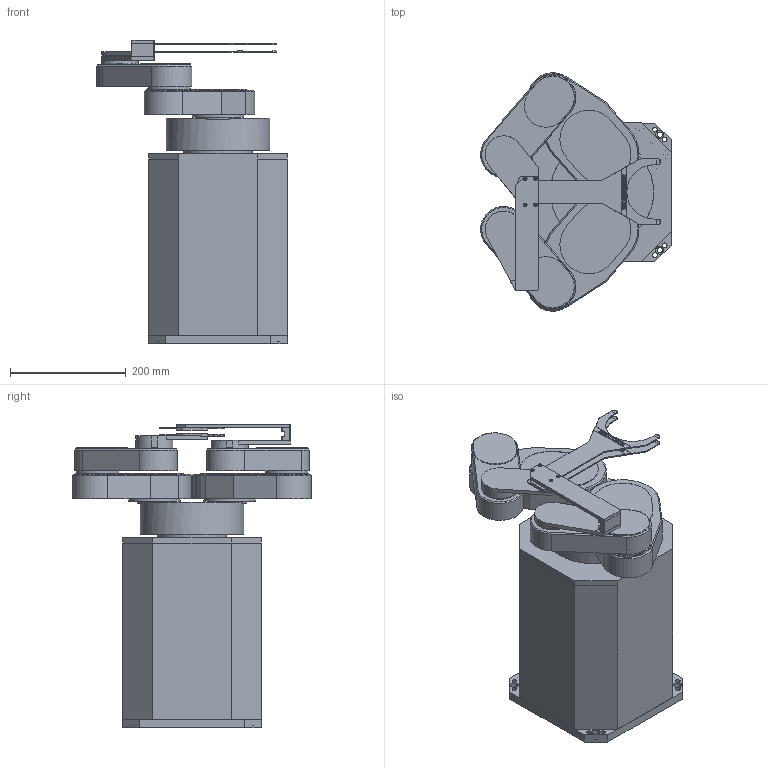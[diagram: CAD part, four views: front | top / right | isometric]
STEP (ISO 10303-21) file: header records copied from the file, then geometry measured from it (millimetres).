
FILE_DESCRIPTION(/* description */ (''),/* implementation_level */ '2;1');
FILE_NAME(/* name */ 'C:\Users\h-mitaka\Desktop\新しいフォルダー\3D-04774A\STCR4130S-200-PM-04774A.stp',/* time_stamp */ '2018-04-03T17:14:02+09:00',/* author */ ('h-mitaka'),/* organization */ (''),/* preprocessor_version */ 'ST-DEVELOPER v16.13',/* originating_system */ 'Autodesk Inventor 2018',/* authorisation */ '');
FILE_SCHEMA (('AUTOMOTIVE_DESIGN { 1 0 10303 214 3 1 1 }'));
Length unit declared in the file: millimetre
Products named in the file (10): STCR4130S-200-PM-04774A; BODY-TB300; PIPE-SCT200; ARM1-SC130; ARM2-SC130; WRIST-BLOCK1; 2-WRIST-BLOCK; END-EFFECTOR; COVER-01386-1; COVER-01387-1
Assembly tree (12 placements, depth 2):
  STCR4130S-200-PM-04774A
    BODY-TB300
    PIPE-SCT200
    ARM1-SC130  x2
    ARM2-SC130  x2
    WRIST-BLOCK1
    2-WRIST-BLOCK
    END-EFFECTOR  x2
    COVER-01386-1
    COVER-01387-1
Bounding box: 330 x 412.58 x 526 mm (x, y, z)
Volume: 22419770.8 mm3; surface area: 999211 mm2
Topology: 12 solids, 12 shells, 433 faces, 1093 edges, 726 vertices
Faces by surface type: plane 291, cylinder 124, cone 18
Full cylindrical faces by diameter (mm): 3 x8, 3.5 x4, 3.6 x4, 4 x2, 6 x4, 8 x8, 9 x4, 10 x4, 14 x4, 50 x4, 51 x1, 59 x2, 61 x2, 74 x2, 89 x2, 119 x2, 179 x1
Entity records: 10177 total; most frequent: DIRECTION 1716, CARTESIAN_POINT 1681, ORIENTED_EDGE 1544, EDGE_CURVE 772, AXIS2_PLACEMENT_3D 583, LINE 550, VECTOR 550, VERTEX_POINT 548
